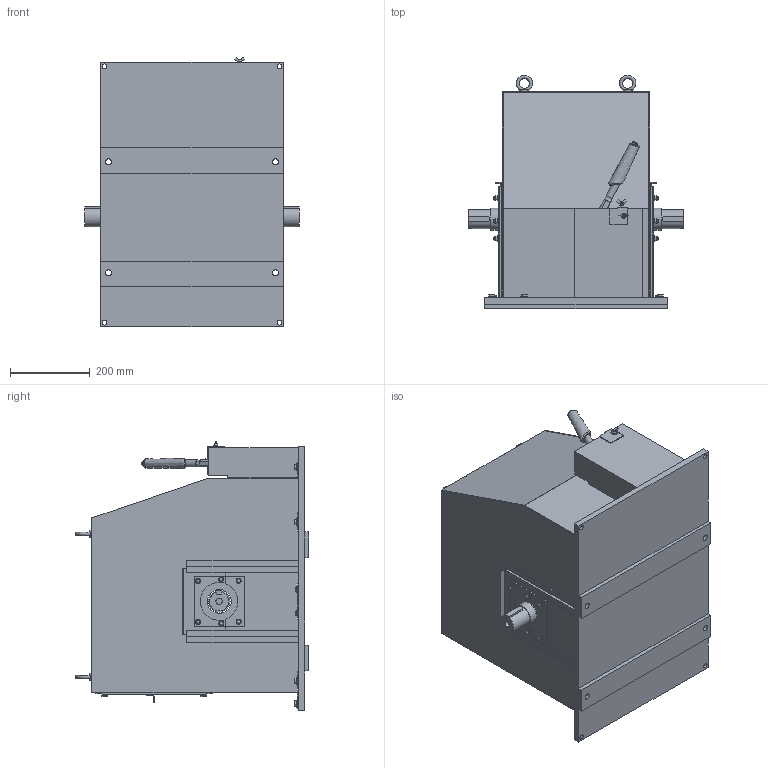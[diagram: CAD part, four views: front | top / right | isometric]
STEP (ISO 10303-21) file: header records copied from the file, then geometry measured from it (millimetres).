
FILE_DESCRIPTION (( 'STEP AP203' ), '1' );
FILE_NAME ('ECE-1513-01_水門用直流電磁ブレーキ.STEP', '2026-03-03T01:09:17', ( '' ), ( '' ), 'SwSTEP 2.0', 'SolidWorks 2025', '' );
FILE_SCHEMA (( 'CONFIG_CONTROL_DESIGN' ));
Length unit declared in the file: millimetre
Products named in the file (1): ECE-1513-01_水門用直流電磁ブレーキ
Bounding box: 540 x 586.46 x 677.7 mm (x, y, z)
Volume: 11538046.4 mm3; surface area: 3338404.2 mm2
Topology: 6 solids, 6 shells, 1048 faces, 2673 edges, 1692 vertices
Faces by surface type: plane 663, cylinder 175, cone 162, sphere 20, torus 17, bspline 11
Full cylindrical faces by diameter (mm): 6 x2, 7 x3, 8.13 x3, 8.5 x4, 9.5 x1, 10 x16, 12 x5, 13 x17, 15 x8, 16 x1, 18 x7, 25 x1, 48 x2, 55 x5, 60 x2
Entity records: 37523 total; most frequent: CARTESIAN_POINT 13126, ORIENTED_EDGE 5066, DIRECTION 4736, EDGE_CURVE 2533, VERTEX_POINT 1653, LINE 1638, VECTOR 1638, AXIS2_PLACEMENT_3D 1549
